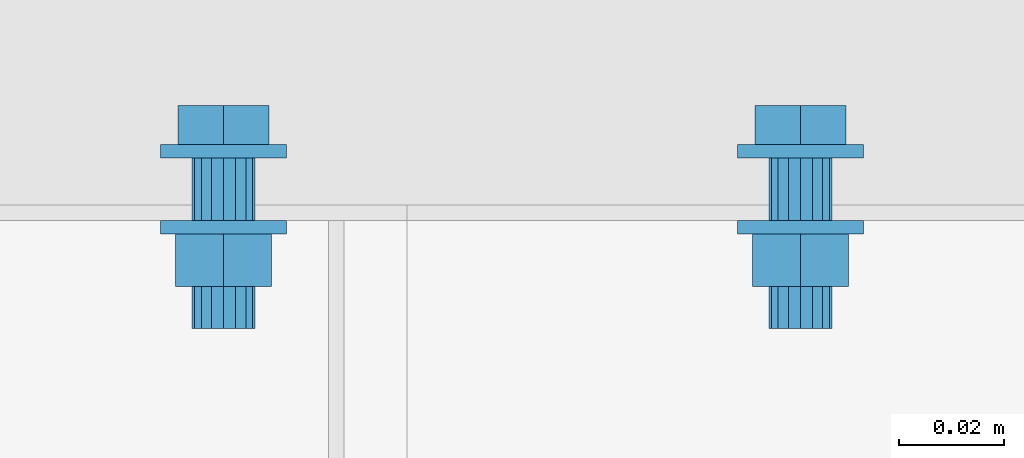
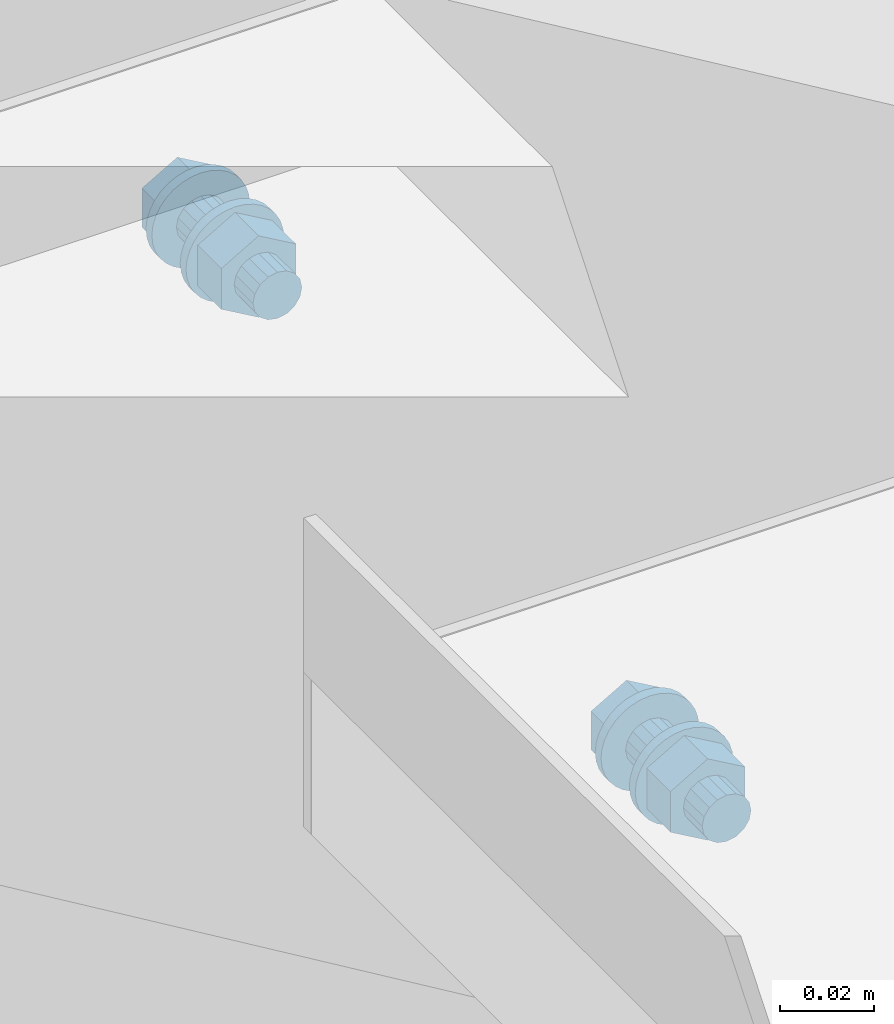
# One storey, part 252 of 410: 2 mechanical fasteners.
"""IFC2X3 building model written with IfcOpenShell, lengths in millimetres."""

from ifc_helpers import new_model, entity, si_unit, converted_unit, origin_with_axes, place, context, project, spatial, faceted_brep, element, save


model = new_model("IFC2X3")

# Units and contexts
model_context = context("Model", 3, precision=1e-09, world=origin_with_axes())
ifc_project = project(units=[si_unit("LENGTHUNIT", "METRE", prefix="MILLI"), si_unit("AREAUNIT", "SQUARE_METRE"), si_unit("VOLUMEUNIT", "CUBIC_METRE"), converted_unit("PLANEANGLEUNIT", "DEGREE", entity("IfcPlaneAngleMeasure", 0.01745329), si_unit("PLANEANGLEUNIT", "RADIAN"), dimensions=[0, 0, 0, 0, 0, 0, 0])], contexts=[model_context])

# Site, building, storey
site_placement = place(None, origin_with_axes())
site = spatial("IfcSite", under=ifc_project, at=site_placement, Name="mKR Teilneubau & Sanierung BA1 - Ostfildern", CompositionType="ELEMENT")
building_placement = place(site_placement, origin_with_axes())
building = spatial("IfcBuilding", under=site, at=building_placement, Name="Struktur 1", CompositionType="ELEMENT")
storey_placement = place(building_placement, origin_with_axes())
storey = spatial("IfcBuildingStorey", under=building, at=storey_placement, Name="Default Storey", CompositionType="ELEMENT", Elevation=0.0)

# Mechanical fasteners
mechanical_fastener_1_placement = place(None, origin_with_axes())
element("IfcMechanicalFastener", 1, at=mechanical_fastener_1_placement, inside=storey, ObjectType="Bolt", NominalDiameter=12.0, NominalLength=35.0, context=model_context, shape_type="Brep", body=[
    faceted_brep([(-748.0, 18451.499999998, 3249.3478265), (-748.0, 18448.999999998, 3249.3478265), (-748.230576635, 18448.999999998, 3247.006742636), (-748.230576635, 18451.499999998, 3247.006742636), (-748.91344561, 18448.999999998, 3244.755625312), (-748.91344561, 18451.499999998, 3244.755625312), (-750.022364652, 18448.999999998, 3242.680983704), (-750.022364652, 18451.499999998, 3242.680983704), (-751.514718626, 18448.999999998, 3240.862545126), (-751.514718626, 18451.499999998, 3240.862545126), (-753.333157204, 18448.999999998, 3239.370191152), (-753.333157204, 18451.499999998, 3239.370191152), (-755.407798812, 18448.999999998, 3238.26127211), (-755.407798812, 18451.499999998, 3238.26127211), (-757.658916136, 18448.999999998, 3237.578403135), (-757.658916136, 18451.499999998, 3237.578403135), (-760.0, 18448.999999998, 3237.3478265), (-760.0, 18451.499999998, 3237.3478265), (-762.341083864, 18448.999999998, 3237.578403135), (-762.341083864, 18451.499999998, 3237.578403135), (-764.592201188, 18448.999999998, 3238.26127211), (-764.592201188, 18451.499999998, 3238.26127211), (-766.666842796, 18448.999999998, 3239.370191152), (-766.666842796, 18451.499999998, 3239.370191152), (-768.485281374, 18448.999999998, 3240.862545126), (-768.485281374, 18451.499999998, 3240.862545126), (-769.977635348, 18448.999999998, 3242.680983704), (-769.977635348, 18451.499999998, 3242.680983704), (-771.08655439, 18448.999999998, 3244.755625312), (-771.08655439, 18451.499999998, 3244.755625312), (-771.769423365, 18448.999999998, 3247.006742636), (-771.769423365, 18451.499999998, 3247.006742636), (-772.0, 18448.999999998, 3249.3478265), (-772.0, 18451.499999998, 3249.3478265), (-771.769423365, 18448.999999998, 3251.688910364), (-771.769423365, 18451.499999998, 3251.688910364), (-771.08655439, 18448.999999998, 3253.940027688), (-771.08655439, 18451.499999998, 3253.940027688), (-769.977635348, 18448.999999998, 3256.014669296), (-769.977635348, 18451.499999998, 3256.014669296), (-768.485281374, 18448.999999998, 3257.833107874), (-768.485281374, 18451.499999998, 3257.833107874), (-766.666842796, 18448.999999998, 3259.325461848), (-766.666842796, 18451.499999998, 3259.325461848), (-764.592201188, 18448.999999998, 3260.43438089), (-764.592201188, 18451.499999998, 3260.43438089), (-762.341083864, 18448.999999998, 3261.117249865), (-762.341083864, 18451.499999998, 3261.117249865), (-760.0, 18448.999999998, 3261.3478265), (-760.0, 18451.499999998, 3261.3478265), (-757.658916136, 18448.999999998, 3261.117249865), (-757.658916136, 18451.499999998, 3261.117249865), (-755.407798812, 18448.999999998, 3260.43438089), (-755.407798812, 18451.499999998, 3260.43438089), (-753.333157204, 18448.999999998, 3259.325461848), (-753.333157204, 18451.499999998, 3259.325461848), (-751.514718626, 18448.999999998, 3257.833107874), (-751.514718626, 18451.499999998, 3257.833107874), (-750.022364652, 18448.999999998, 3256.014669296), (-750.022364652, 18451.499999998, 3256.014669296), (-748.91344561, 18448.999999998, 3253.940027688), (-748.91344561, 18451.499999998, 3253.940027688), (-748.230576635, 18448.999999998, 3251.688910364), (-748.230576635, 18451.499999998, 3251.688910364)], [[[0, 1, 2, 3]], [[3, 2, 4, 5]], [[5, 4, 6, 7]], [[7, 6, 8, 9]], [[9, 8, 10, 11]], [[11, 10, 12, 13]], [[13, 12, 14, 15]], [[15, 14, 16, 17]], [[17, 16, 18, 19]], [[19, 18, 20, 21]], [[21, 20, 22, 23]], [[23, 22, 24, 25]], [[25, 24, 26, 27]], [[27, 26, 28, 29]], [[29, 28, 30, 31]], [[31, 30, 32, 33]], [[33, 32, 34, 35]], [[35, 34, 36, 37]], [[37, 36, 38, 39]], [[39, 38, 40, 41]], [[41, 40, 42, 43]], [[43, 42, 44, 45]], [[45, 44, 46, 47]], [[47, 46, 48, 49]], [[49, 48, 50, 51]], [[51, 50, 52, 53]], [[53, 52, 54, 55]], [[55, 54, 56, 57]], [[57, 56, 58, 59]], [[59, 58, 60, 61]], [[61, 60, 62, 63]], [[63, 62, 1, 0]], [[0, 3, 5, 7, 9, 11, 13, 15, 17, 19, 21, 23, 25, 27, 29, 31, 33, 35, 37, 39, 41, 43, 45, 47, 49, 51, 53, 55, 57, 59, 61, 63]], [[1, 62, 60, 58, 56, 54, 52, 50, 48, 46, 44, 42, 40, 38, 36, 34, 32, 30, 28, 26, 24, 22, 20, 18, 16, 14, 12, 10, 8, 6, 4, 2]]]),
    faceted_brep([(-768.673244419, 18451.499999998, 3244.3403265), (-768.673244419, 18458.999999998, 3244.3403265), (-760.0, 18458.999999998, 3239.3328265), (-760.0, 18451.499999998, 3239.3328265), (-751.326755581, 18458.999999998, 3244.3403265), (-751.326755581, 18451.499999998, 3244.3403265), (-751.326755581, 18458.999999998, 3254.3553265), (-751.326755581, 18451.499999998, 3254.3553265), (-760.0, 18458.999999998, 3259.3628265), (-760.0, 18451.499999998, 3259.3628265), (-768.673244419, 18458.999999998, 3254.3553265), (-768.673244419, 18451.499999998, 3254.3553265)], [[[0, 1, 2, 3]], [[3, 2, 4, 5]], [[5, 4, 6, 7]], [[7, 6, 8, 9]], [[9, 8, 10, 11]], [[11, 10, 1, 0]], [[4, 2, 1, 10, 8, 6]], [[0, 3, 5, 7, 9, 11]]]),
    faceted_brep([(-754.0, 18448.999999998, 3249.3478265), (-754.0, 18436.999999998, 3249.3478265), (-754.456722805, 18436.999999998, 3247.051725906), (-754.456722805, 18448.999999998, 3247.051725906), (-755.757359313, 18436.999999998, 3245.105185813), (-755.757359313, 18448.999999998, 3245.105185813), (-757.703899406, 18436.999999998, 3243.804549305), (-757.703899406, 18448.999999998, 3243.804549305), (-760.0, 18436.999999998, 3243.3478265), (-760.0, 18448.999999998, 3243.3478265), (-762.296100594, 18436.999999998, 3243.804549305), (-762.296100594, 18448.999999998, 3243.804549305), (-764.242640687, 18436.999999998, 3245.105185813), (-764.242640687, 18448.999999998, 3245.105185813), (-765.543277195, 18436.999999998, 3247.051725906), (-765.543277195, 18448.999999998, 3247.051725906), (-766.0, 18436.999999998, 3249.3478265), (-766.0, 18448.999999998, 3249.3478265), (-765.543277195, 18436.999999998, 3251.643927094), (-765.543277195, 18448.999999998, 3251.643927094), (-764.242640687, 18436.999999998, 3253.590467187), (-764.242640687, 18448.999999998, 3253.590467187), (-762.296100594, 18436.999999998, 3254.891103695), (-762.296100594, 18448.999999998, 3254.891103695), (-760.0, 18436.999999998, 3255.3478265), (-760.0, 18448.999999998, 3255.3478265), (-757.703899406, 18436.999999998, 3254.891103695), (-757.703899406, 18448.999999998, 3254.891103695), (-755.757359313, 18436.999999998, 3253.590467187), (-755.757359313, 18448.999999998, 3253.590467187), (-754.456722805, 18436.999999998, 3251.643927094), (-754.456722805, 18448.999999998, 3251.643927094)], [[[0, 1, 2, 3]], [[3, 2, 4, 5]], [[5, 4, 6, 7]], [[7, 6, 8, 9]], [[9, 8, 10, 11]], [[11, 10, 12, 13]], [[13, 12, 14, 15]], [[15, 14, 16, 17]], [[17, 16, 18, 19]], [[19, 18, 20, 21]], [[21, 20, 22, 23]], [[23, 22, 24, 25]], [[25, 24, 26, 27]], [[27, 26, 28, 29]], [[29, 28, 30, 31]], [[31, 30, 1, 0]], [[0, 3, 5, 7, 9, 11, 13, 15, 17, 19, 21, 23, 25, 27, 29, 31]], [[1, 30, 28, 26, 24, 22, 20, 18, 16, 14, 12, 10, 8, 6, 4, 2]]]),
    faceted_brep([(-748.0, 18436.999999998, 3249.3478265), (-748.0, 18434.499999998, 3249.3478265), (-748.230576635, 18434.499999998, 3247.006742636), (-748.230576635, 18436.999999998, 3247.006742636), (-748.91344561, 18434.499999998, 3244.755625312), (-748.91344561, 18436.999999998, 3244.755625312), (-750.022364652, 18434.499999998, 3242.680983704), (-750.022364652, 18436.999999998, 3242.680983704), (-751.514718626, 18434.499999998, 3240.862545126), (-751.514718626, 18436.999999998, 3240.862545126), (-753.333157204, 18434.499999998, 3239.370191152), (-753.333157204, 18436.999999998, 3239.370191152), (-755.407798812, 18434.499999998, 3238.26127211), (-755.407798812, 18436.999999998, 3238.26127211), (-757.658916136, 18434.499999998, 3237.578403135), (-757.658916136, 18436.999999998, 3237.578403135), (-760.0, 18434.499999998, 3237.3478265), (-760.0, 18436.999999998, 3237.3478265), (-762.341083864, 18434.499999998, 3237.578403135), (-762.341083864, 18436.999999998, 3237.578403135), (-764.592201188, 18434.499999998, 3238.26127211), (-764.592201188, 18436.999999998, 3238.26127211), (-766.666842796, 18434.499999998, 3239.370191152), (-766.666842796, 18436.999999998, 3239.370191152), (-768.485281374, 18434.499999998, 3240.862545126), (-768.485281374, 18436.999999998, 3240.862545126), (-769.977635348, 18434.499999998, 3242.680983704), (-769.977635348, 18436.999999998, 3242.680983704), (-771.08655439, 18434.499999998, 3244.755625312), (-771.08655439, 18436.999999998, 3244.755625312), (-771.769423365, 18434.499999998, 3247.006742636), (-771.769423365, 18436.999999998, 3247.006742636), (-772.0, 18434.499999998, 3249.3478265), (-772.0, 18436.999999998, 3249.3478265), (-771.769423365, 18434.499999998, 3251.688910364), (-771.769423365, 18436.999999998, 3251.688910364), (-771.08655439, 18434.499999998, 3253.940027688), (-771.08655439, 18436.999999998, 3253.940027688), (-769.977635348, 18434.499999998, 3256.014669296), (-769.977635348, 18436.999999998, 3256.014669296), (-768.485281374, 18434.499999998, 3257.833107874), (-768.485281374, 18436.999999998, 3257.833107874), (-766.666842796, 18434.499999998, 3259.325461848), (-766.666842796, 18436.999999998, 3259.325461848), (-764.592201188, 18434.499999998, 3260.43438089), (-764.592201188, 18436.999999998, 3260.43438089), (-762.341083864, 18434.499999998, 3261.117249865), (-762.341083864, 18436.999999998, 3261.117249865), (-760.0, 18434.499999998, 3261.3478265), (-760.0, 18436.999999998, 3261.3478265), (-757.658916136, 18434.499999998, 3261.117249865), (-757.658916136, 18436.999999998, 3261.117249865), (-755.407798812, 18434.499999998, 3260.43438089), (-755.407798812, 18436.999999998, 3260.43438089), (-753.333157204, 18434.499999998, 3259.325461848), (-753.333157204, 18436.999999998, 3259.325461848), (-751.514718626, 18434.499999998, 3257.833107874), (-751.514718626, 18436.999999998, 3257.833107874), (-750.022364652, 18434.499999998, 3256.014669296), (-750.022364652, 18436.999999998, 3256.014669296), (-748.91344561, 18434.499999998, 3253.940027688), (-748.91344561, 18436.999999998, 3253.940027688), (-748.230576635, 18434.499999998, 3251.688910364), (-748.230576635, 18436.999999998, 3251.688910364)], [[[0, 1, 2, 3]], [[3, 2, 4, 5]], [[5, 4, 6, 7]], [[7, 6, 8, 9]], [[9, 8, 10, 11]], [[11, 10, 12, 13]], [[13, 12, 14, 15]], [[15, 14, 16, 17]], [[17, 16, 18, 19]], [[19, 18, 20, 21]], [[21, 20, 22, 23]], [[23, 22, 24, 25]], [[25, 24, 26, 27]], [[27, 26, 28, 29]], [[29, 28, 30, 31]], [[31, 30, 32, 33]], [[33, 32, 34, 35]], [[35, 34, 36, 37]], [[37, 36, 38, 39]], [[39, 38, 40, 41]], [[41, 40, 42, 43]], [[43, 42, 44, 45]], [[45, 44, 46, 47]], [[47, 46, 48, 49]], [[49, 48, 50, 51]], [[51, 50, 52, 53]], [[53, 52, 54, 55]], [[55, 54, 56, 57]], [[57, 56, 58, 59]], [[59, 58, 60, 61]], [[61, 60, 62, 63]], [[63, 62, 1, 0]], [[0, 3, 5, 7, 9, 11, 13, 15, 17, 19, 21, 23, 25, 27, 29, 31, 33, 35, 37, 39, 41, 43, 45, 47, 49, 51, 53, 55, 57, 59, 61, 63]], [[1, 62, 60, 58, 56, 54, 52, 50, 48, 46, 44, 42, 40, 38, 36, 34, 32, 30, 28, 26, 24, 22, 20, 18, 16, 14, 12, 10, 8, 6, 4, 2]]]),
    faceted_brep([(-769.13656801, 18424.499999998, 3244.0728265), (-769.13656801, 18434.499999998, 3244.0728265), (-760.0, 18434.499999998, 3238.7978265), (-760.0, 18424.499999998, 3238.7978265), (-750.86343199, 18434.499999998, 3244.0728265), (-750.86343199, 18424.499999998, 3244.0728265), (-750.86343199, 18434.499999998, 3254.6228265), (-750.86343199, 18424.499999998, 3254.6228265), (-760.0, 18434.499999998, 3259.8978265), (-760.0, 18424.499999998, 3259.8978265), (-769.13656801, 18434.499999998, 3254.6228265), (-769.13656801, 18424.499999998, 3254.6228265)], [[[0, 1, 2, 3]], [[3, 2, 4, 5]], [[5, 4, 6, 7]], [[7, 6, 8, 9]], [[9, 8, 10, 11]], [[11, 10, 1, 0]], [[4, 2, 1, 10, 8, 6]], [[0, 3, 5, 7, 9, 11]]]),
    faceted_brep([(-754.0, 18424.499999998, 3249.3478265), (-754.0, 18416.499999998, 3249.3478265), (-754.456722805, 18416.499999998, 3247.051725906), (-754.456722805, 18424.499999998, 3247.051725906), (-755.757359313, 18416.499999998, 3245.105185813), (-755.757359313, 18424.499999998, 3245.105185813), (-757.703899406, 18416.499999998, 3243.804549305), (-757.703899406, 18424.499999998, 3243.804549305), (-760.0, 18416.499999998, 3243.3478265), (-760.0, 18424.499999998, 3243.3478265), (-762.296100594, 18416.499999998, 3243.804549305), (-762.296100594, 18424.499999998, 3243.804549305), (-764.242640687, 18416.499999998, 3245.105185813), (-764.242640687, 18424.499999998, 3245.105185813), (-765.543277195, 18416.499999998, 3247.051725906), (-765.543277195, 18424.499999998, 3247.051725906), (-766.0, 18416.499999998, 3249.3478265), (-766.0, 18424.499999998, 3249.3478265), (-765.543277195, 18416.499999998, 3251.643927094), (-765.543277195, 18424.499999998, 3251.643927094), (-764.242640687, 18416.499999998, 3253.590467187), (-764.242640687, 18424.499999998, 3253.590467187), (-762.296100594, 18416.499999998, 3254.891103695), (-762.296100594, 18424.499999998, 3254.891103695), (-760.0, 18416.499999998, 3255.3478265), (-760.0, 18424.499999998, 3255.3478265), (-757.703899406, 18416.499999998, 3254.891103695), (-757.703899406, 18424.499999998, 3254.891103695), (-755.757359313, 18416.499999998, 3253.590467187), (-755.757359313, 18424.499999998, 3253.590467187), (-754.456722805, 18416.499999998, 3251.643927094), (-754.456722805, 18424.499999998, 3251.643927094)], [[[0, 1, 2, 3]], [[3, 2, 4, 5]], [[5, 4, 6, 7]], [[7, 6, 8, 9]], [[9, 8, 10, 11]], [[11, 10, 12, 13]], [[13, 12, 14, 15]], [[15, 14, 16, 17]], [[17, 16, 18, 19]], [[19, 18, 20, 21]], [[21, 20, 22, 23]], [[23, 22, 24, 25]], [[25, 24, 26, 27]], [[27, 26, 28, 29]], [[29, 28, 30, 31]], [[31, 30, 1, 0]], [[0, 3, 5, 7, 9, 11, 13, 15, 17, 19, 21, 23, 25, 27, 29, 31]], [[1, 30, 28, 26, 24, 22, 20, 18, 16, 14, 12, 10, 8, 6, 4, 2]]]),
])
mechanical_fastener_2_placement = place(None, origin_with_axes())
element("IfcMechanicalFastener", 2, at=mechanical_fastener_2_placement, inside=storey, ObjectType="Bolt", NominalDiameter=12.0, NominalLength=35.0, context=model_context, shape_type="Brep", body=[
    faceted_brep([(-858.0, 18451.499999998, 3423.26087), (-858.0, 18448.999999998, 3423.26087), (-858.230576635, 18448.999999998, 3420.919786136), (-858.230576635, 18451.499999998, 3420.919786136), (-858.91344561, 18448.999999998, 3418.668668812), (-858.91344561, 18451.499999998, 3418.668668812), (-860.022364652, 18448.999999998, 3416.594027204), (-860.022364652, 18451.499999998, 3416.594027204), (-861.514718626, 18448.999999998, 3414.775588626), (-861.514718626, 18451.499999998, 3414.775588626), (-863.333157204, 18448.999999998, 3413.283234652), (-863.333157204, 18451.499999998, 3413.283234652), (-865.407798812, 18448.999999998, 3412.17431561), (-865.407798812, 18451.499999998, 3412.17431561), (-867.658916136, 18448.999999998, 3411.491446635), (-867.658916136, 18451.499999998, 3411.491446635), (-870.0, 18448.999999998, 3411.26087), (-870.0, 18451.499999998, 3411.26087), (-872.341083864, 18448.999999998, 3411.491446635), (-872.341083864, 18451.499999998, 3411.491446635), (-874.592201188, 18448.999999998, 3412.17431561), (-874.592201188, 18451.499999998, 3412.17431561), (-876.666842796, 18448.999999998, 3413.283234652), (-876.666842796, 18451.499999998, 3413.283234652), (-878.485281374, 18448.999999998, 3414.775588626), (-878.485281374, 18451.499999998, 3414.775588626), (-879.977635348, 18448.999999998, 3416.594027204), (-879.977635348, 18451.499999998, 3416.594027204), (-881.08655439, 18448.999999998, 3418.668668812), (-881.08655439, 18451.499999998, 3418.668668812), (-881.769423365, 18448.999999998, 3420.919786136), (-881.769423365, 18451.499999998, 3420.919786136), (-882.0, 18448.999999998, 3423.26087), (-882.0, 18451.499999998, 3423.26087), (-881.769423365, 18448.999999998, 3425.601953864), (-881.769423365, 18451.499999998, 3425.601953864), (-881.08655439, 18448.999999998, 3427.853071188), (-881.08655439, 18451.499999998, 3427.853071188), (-879.977635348, 18448.999999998, 3429.927712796), (-879.977635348, 18451.499999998, 3429.927712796), (-878.485281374, 18448.999999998, 3431.746151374), (-878.485281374, 18451.499999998, 3431.746151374), (-876.666842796, 18448.999999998, 3433.238505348), (-876.666842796, 18451.499999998, 3433.238505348), (-874.592201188, 18448.999999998, 3434.34742439), (-874.592201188, 18451.499999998, 3434.34742439), (-872.341083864, 18448.999999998, 3435.030293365), (-872.341083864, 18451.499999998, 3435.030293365), (-870.0, 18448.999999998, 3435.26087), (-870.0, 18451.499999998, 3435.26087), (-867.658916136, 18448.999999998, 3435.030293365), (-867.658916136, 18451.499999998, 3435.030293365), (-865.407798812, 18448.999999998, 3434.34742439), (-865.407798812, 18451.499999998, 3434.34742439), (-863.333157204, 18448.999999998, 3433.238505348), (-863.333157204, 18451.499999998, 3433.238505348), (-861.514718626, 18448.999999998, 3431.746151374), (-861.514718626, 18451.499999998, 3431.746151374), (-860.022364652, 18448.999999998, 3429.927712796), (-860.022364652, 18451.499999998, 3429.927712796), (-858.91344561, 18448.999999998, 3427.853071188), (-858.91344561, 18451.499999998, 3427.853071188), (-858.230576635, 18448.999999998, 3425.601953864), (-858.230576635, 18451.499999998, 3425.601953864)], [[[0, 1, 2, 3]], [[3, 2, 4, 5]], [[5, 4, 6, 7]], [[7, 6, 8, 9]], [[9, 8, 10, 11]], [[11, 10, 12, 13]], [[13, 12, 14, 15]], [[15, 14, 16, 17]], [[17, 16, 18, 19]], [[19, 18, 20, 21]], [[21, 20, 22, 23]], [[23, 22, 24, 25]], [[25, 24, 26, 27]], [[27, 26, 28, 29]], [[29, 28, 30, 31]], [[31, 30, 32, 33]], [[33, 32, 34, 35]], [[35, 34, 36, 37]], [[37, 36, 38, 39]], [[39, 38, 40, 41]], [[41, 40, 42, 43]], [[43, 42, 44, 45]], [[45, 44, 46, 47]], [[47, 46, 48, 49]], [[49, 48, 50, 51]], [[51, 50, 52, 53]], [[53, 52, 54, 55]], [[55, 54, 56, 57]], [[57, 56, 58, 59]], [[59, 58, 60, 61]], [[61, 60, 62, 63]], [[63, 62, 1, 0]], [[0, 3, 5, 7, 9, 11, 13, 15, 17, 19, 21, 23, 25, 27, 29, 31, 33, 35, 37, 39, 41, 43, 45, 47, 49, 51, 53, 55, 57, 59, 61, 63]], [[1, 62, 60, 58, 56, 54, 52, 50, 48, 46, 44, 42, 40, 38, 36, 34, 32, 30, 28, 26, 24, 22, 20, 18, 16, 14, 12, 10, 8, 6, 4, 2]]]),
    faceted_brep([(-878.673244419, 18451.499999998, 3418.25337), (-878.673244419, 18458.999999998, 3418.25337), (-870.0, 18458.999999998, 3413.24587), (-870.0, 18451.499999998, 3413.24587), (-861.326755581, 18458.999999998, 3418.25337), (-861.326755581, 18451.499999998, 3418.25337), (-861.326755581, 18458.999999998, 3428.26837), (-861.326755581, 18451.499999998, 3428.26837), (-870.0, 18458.999999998, 3433.27587), (-870.0, 18451.499999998, 3433.27587), (-878.673244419, 18458.999999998, 3428.26837), (-878.673244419, 18451.499999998, 3428.26837)], [[[0, 1, 2, 3]], [[3, 2, 4, 5]], [[5, 4, 6, 7]], [[7, 6, 8, 9]], [[9, 8, 10, 11]], [[11, 10, 1, 0]], [[4, 2, 1, 10, 8, 6]], [[0, 3, 5, 7, 9, 11]]]),
    faceted_brep([(-864.0, 18448.999999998, 3423.26087), (-864.0, 18436.999999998, 3423.26087), (-864.456722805, 18436.999999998, 3420.964769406), (-864.456722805, 18448.999999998, 3420.964769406), (-865.757359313, 18436.999999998, 3419.018229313), (-865.757359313, 18448.999999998, 3419.018229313), (-867.703899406, 18436.999999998, 3417.717592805), (-867.703899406, 18448.999999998, 3417.717592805), (-870.0, 18436.999999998, 3417.26087), (-870.0, 18448.999999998, 3417.26087), (-872.296100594, 18436.999999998, 3417.717592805), (-872.296100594, 18448.999999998, 3417.717592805), (-874.242640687, 18436.999999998, 3419.018229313), (-874.242640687, 18448.999999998, 3419.018229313), (-875.543277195, 18436.999999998, 3420.964769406), (-875.543277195, 18448.999999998, 3420.964769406), (-876.0, 18436.999999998, 3423.26087), (-876.0, 18448.999999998, 3423.26087), (-875.543277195, 18436.999999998, 3425.556970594), (-875.543277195, 18448.999999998, 3425.556970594), (-874.242640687, 18436.999999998, 3427.503510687), (-874.242640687, 18448.999999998, 3427.503510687), (-872.296100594, 18436.999999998, 3428.804147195), (-872.296100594, 18448.999999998, 3428.804147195), (-870.0, 18436.999999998, 3429.26087), (-870.0, 18448.999999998, 3429.26087), (-867.703899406, 18436.999999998, 3428.804147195), (-867.703899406, 18448.999999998, 3428.804147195), (-865.757359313, 18436.999999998, 3427.503510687), (-865.757359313, 18448.999999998, 3427.503510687), (-864.456722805, 18436.999999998, 3425.556970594), (-864.456722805, 18448.999999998, 3425.556970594)], [[[0, 1, 2, 3]], [[3, 2, 4, 5]], [[5, 4, 6, 7]], [[7, 6, 8, 9]], [[9, 8, 10, 11]], [[11, 10, 12, 13]], [[13, 12, 14, 15]], [[15, 14, 16, 17]], [[17, 16, 18, 19]], [[19, 18, 20, 21]], [[21, 20, 22, 23]], [[23, 22, 24, 25]], [[25, 24, 26, 27]], [[27, 26, 28, 29]], [[29, 28, 30, 31]], [[31, 30, 1, 0]], [[0, 3, 5, 7, 9, 11, 13, 15, 17, 19, 21, 23, 25, 27, 29, 31]], [[1, 30, 28, 26, 24, 22, 20, 18, 16, 14, 12, 10, 8, 6, 4, 2]]]),
    faceted_brep([(-858.0, 18436.999999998, 3423.26087), (-858.0, 18434.499999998, 3423.26087), (-858.230576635, 18434.499999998, 3420.919786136), (-858.230576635, 18436.999999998, 3420.919786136), (-858.91344561, 18434.499999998, 3418.668668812), (-858.91344561, 18436.999999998, 3418.668668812), (-860.022364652, 18434.499999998, 3416.594027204), (-860.022364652, 18436.999999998, 3416.594027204), (-861.514718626, 18434.499999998, 3414.775588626), (-861.514718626, 18436.999999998, 3414.775588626), (-863.333157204, 18434.499999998, 3413.283234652), (-863.333157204, 18436.999999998, 3413.283234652), (-865.407798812, 18434.499999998, 3412.17431561), (-865.407798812, 18436.999999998, 3412.17431561), (-867.658916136, 18434.499999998, 3411.491446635), (-867.658916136, 18436.999999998, 3411.491446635), (-870.0, 18434.499999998, 3411.26087), (-870.0, 18436.999999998, 3411.26087), (-872.341083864, 18434.499999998, 3411.491446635), (-872.341083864, 18436.999999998, 3411.491446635), (-874.592201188, 18434.499999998, 3412.17431561), (-874.592201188, 18436.999999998, 3412.17431561), (-876.666842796, 18434.499999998, 3413.283234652), (-876.666842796, 18436.999999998, 3413.283234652), (-878.485281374, 18434.499999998, 3414.775588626), (-878.485281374, 18436.999999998, 3414.775588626), (-879.977635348, 18434.499999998, 3416.594027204), (-879.977635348, 18436.999999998, 3416.594027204), (-881.08655439, 18434.499999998, 3418.668668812), (-881.08655439, 18436.999999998, 3418.668668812), (-881.769423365, 18434.499999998, 3420.919786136), (-881.769423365, 18436.999999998, 3420.919786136), (-882.0, 18434.499999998, 3423.26087), (-882.0, 18436.999999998, 3423.26087), (-881.769423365, 18434.499999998, 3425.601953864), (-881.769423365, 18436.999999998, 3425.601953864), (-881.08655439, 18434.499999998, 3427.853071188), (-881.08655439, 18436.999999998, 3427.853071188), (-879.977635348, 18434.499999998, 3429.927712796), (-879.977635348, 18436.999999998, 3429.927712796), (-878.485281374, 18434.499999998, 3431.746151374), (-878.485281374, 18436.999999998, 3431.746151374), (-876.666842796, 18434.499999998, 3433.238505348), (-876.666842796, 18436.999999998, 3433.238505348), (-874.592201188, 18434.499999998, 3434.34742439), (-874.592201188, 18436.999999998, 3434.34742439), (-872.341083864, 18434.499999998, 3435.030293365), (-872.341083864, 18436.999999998, 3435.030293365), (-870.0, 18434.499999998, 3435.26087), (-870.0, 18436.999999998, 3435.26087), (-867.658916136, 18434.499999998, 3435.030293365), (-867.658916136, 18436.999999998, 3435.030293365), (-865.407798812, 18434.499999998, 3434.34742439), (-865.407798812, 18436.999999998, 3434.34742439), (-863.333157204, 18434.499999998, 3433.238505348), (-863.333157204, 18436.999999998, 3433.238505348), (-861.514718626, 18434.499999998, 3431.746151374), (-861.514718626, 18436.999999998, 3431.746151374), (-860.022364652, 18434.499999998, 3429.927712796), (-860.022364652, 18436.999999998, 3429.927712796), (-858.91344561, 18434.499999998, 3427.853071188), (-858.91344561, 18436.999999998, 3427.853071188), (-858.230576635, 18434.499999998, 3425.601953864), (-858.230576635, 18436.999999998, 3425.601953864)], [[[0, 1, 2, 3]], [[3, 2, 4, 5]], [[5, 4, 6, 7]], [[7, 6, 8, 9]], [[9, 8, 10, 11]], [[11, 10, 12, 13]], [[13, 12, 14, 15]], [[15, 14, 16, 17]], [[17, 16, 18, 19]], [[19, 18, 20, 21]], [[21, 20, 22, 23]], [[23, 22, 24, 25]], [[25, 24, 26, 27]], [[27, 26, 28, 29]], [[29, 28, 30, 31]], [[31, 30, 32, 33]], [[33, 32, 34, 35]], [[35, 34, 36, 37]], [[37, 36, 38, 39]], [[39, 38, 40, 41]], [[41, 40, 42, 43]], [[43, 42, 44, 45]], [[45, 44, 46, 47]], [[47, 46, 48, 49]], [[49, 48, 50, 51]], [[51, 50, 52, 53]], [[53, 52, 54, 55]], [[55, 54, 56, 57]], [[57, 56, 58, 59]], [[59, 58, 60, 61]], [[61, 60, 62, 63]], [[63, 62, 1, 0]], [[0, 3, 5, 7, 9, 11, 13, 15, 17, 19, 21, 23, 25, 27, 29, 31, 33, 35, 37, 39, 41, 43, 45, 47, 49, 51, 53, 55, 57, 59, 61, 63]], [[1, 62, 60, 58, 56, 54, 52, 50, 48, 46, 44, 42, 40, 38, 36, 34, 32, 30, 28, 26, 24, 22, 20, 18, 16, 14, 12, 10, 8, 6, 4, 2]]]),
    faceted_brep([(-879.13656801, 18424.499999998, 3417.98587), (-879.13656801, 18434.499999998, 3417.98587), (-870.0, 18434.499999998, 3412.71087), (-870.0, 18424.499999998, 3412.71087), (-860.86343199, 18434.499999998, 3417.98587), (-860.86343199, 18424.499999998, 3417.98587), (-860.86343199, 18434.499999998, 3428.53587), (-860.86343199, 18424.499999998, 3428.53587), (-870.0, 18434.499999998, 3433.81087), (-870.0, 18424.499999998, 3433.81087), (-879.13656801, 18434.499999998, 3428.53587), (-879.13656801, 18424.499999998, 3428.53587)], [[[0, 1, 2, 3]], [[3, 2, 4, 5]], [[5, 4, 6, 7]], [[7, 6, 8, 9]], [[9, 8, 10, 11]], [[11, 10, 1, 0]], [[4, 2, 1, 10, 8, 6]], [[0, 3, 5, 7, 9, 11]]]),
    faceted_brep([(-864.0, 18424.499999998, 3423.26087), (-864.0, 18416.499999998, 3423.26087), (-864.456722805, 18416.499999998, 3420.964769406), (-864.456722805, 18424.499999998, 3420.964769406), (-865.757359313, 18416.499999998, 3419.018229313), (-865.757359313, 18424.499999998, 3419.018229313), (-867.703899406, 18416.499999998, 3417.717592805), (-867.703899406, 18424.499999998, 3417.717592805), (-870.0, 18416.499999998, 3417.26087), (-870.0, 18424.499999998, 3417.26087), (-872.296100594, 18416.499999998, 3417.717592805), (-872.296100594, 18424.499999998, 3417.717592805), (-874.242640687, 18416.499999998, 3419.018229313), (-874.242640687, 18424.499999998, 3419.018229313), (-875.543277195, 18416.499999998, 3420.964769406), (-875.543277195, 18424.499999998, 3420.964769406), (-876.0, 18416.499999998, 3423.26087), (-876.0, 18424.499999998, 3423.26087), (-875.543277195, 18416.499999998, 3425.556970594), (-875.543277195, 18424.499999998, 3425.556970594), (-874.242640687, 18416.499999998, 3427.503510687), (-874.242640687, 18424.499999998, 3427.503510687), (-872.296100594, 18416.499999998, 3428.804147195), (-872.296100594, 18424.499999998, 3428.804147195), (-870.0, 18416.499999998, 3429.26087), (-870.0, 18424.499999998, 3429.26087), (-867.703899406, 18416.499999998, 3428.804147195), (-867.703899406, 18424.499999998, 3428.804147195), (-865.757359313, 18416.499999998, 3427.503510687), (-865.757359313, 18424.499999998, 3427.503510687), (-864.456722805, 18416.499999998, 3425.556970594), (-864.456722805, 18424.499999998, 3425.556970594)], [[[0, 1, 2, 3]], [[3, 2, 4, 5]], [[5, 4, 6, 7]], [[7, 6, 8, 9]], [[9, 8, 10, 11]], [[11, 10, 12, 13]], [[13, 12, 14, 15]], [[15, 14, 16, 17]], [[17, 16, 18, 19]], [[19, 18, 20, 21]], [[21, 20, 22, 23]], [[23, 22, 24, 25]], [[25, 24, 26, 27]], [[27, 26, 28, 29]], [[29, 28, 30, 31]], [[31, 30, 1, 0]], [[0, 3, 5, 7, 9, 11, 13, 15, 17, 19, 21, 23, 25, 27, 29, 31]], [[1, 30, 28, 26, 24, 22, 20, 18, 16, 14, 12, 10, 8, 6, 4, 2]]]),
])

save(model, "model.ifc")
